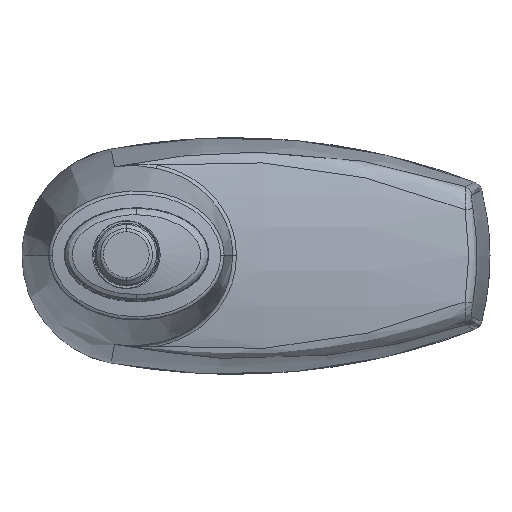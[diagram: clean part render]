
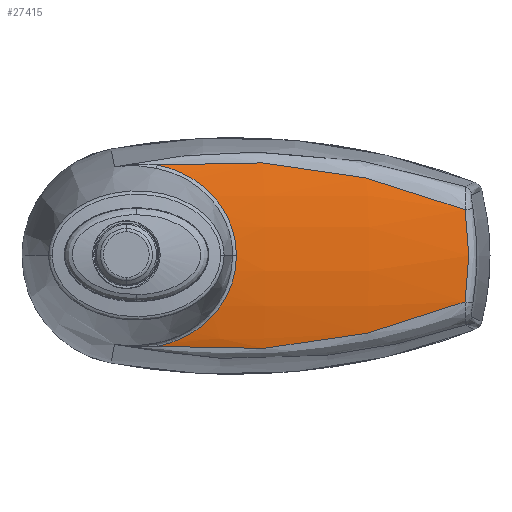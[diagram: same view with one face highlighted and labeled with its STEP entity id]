
A CAD part, top view. The second image highlights one B-rep face of the part: STEP entity #27415.
In plain terms, the highlighted toroidal (fillet/blend) face has major radius 550 mm and minor radius 200 mm.
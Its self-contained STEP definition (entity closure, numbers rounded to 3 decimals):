
#2482=CARTESIAN_POINT('',(13.738,-40.429,114.344));
#2484=CARTESIAN_POINT('',(49.053,0.,114.726));
#2485=CARTESIAN_POINT('',(49.053,2.101,114.726));
#2486=CARTESIAN_POINT('',(48.717,6.245,114.703));
#2487=CARTESIAN_POINT('',(47.249,12.277,114.61));
#2488=CARTESIAN_POINT('',(44.77,18.118,114.471));
#2489=CARTESIAN_POINT('',(41.595,23.216,114.323));
#2490=CARTESIAN_POINT('',(37.513,28.05,114.175));
#2491=CARTESIAN_POINT('',(32.376,32.458,114.065));
#2492=CARTESIAN_POINT('',(27.076,35.797,114.034));
#2493=CARTESIAN_POINT('',(20.829,38.624,114.101));
#2494=CARTESIAN_POINT('',(16.194,39.935,114.242));
#2495=CARTESIAN_POINT('',(13.738,40.429,114.344));
#2497=CARTESIAN_POINT('',(13.738,40.429,114.344));
#2498=CARTESIAN_POINT('',(37.114,42.739,111.924));
#2499=CARTESIAN_POINT('',(84.27,41.833,105.968));
#2500=CARTESIAN_POINT('',(129.511,29.417,98.022));
#2501=CARTESIAN_POINT('',(150.873,20.516,93.09));
#2503=CARTESIAN_POINT('',(150.873,20.516,93.09));
#2504=CARTESIAN_POINT('',(151.996,13.747,93.505));
#2505=CARTESIAN_POINT('',(152.561,6.874,93.718));
#2506=CARTESIAN_POINT('',(152.561,0.,
93.718));
#2508=CARTESIAN_POINT('',(152.561,0.,
93.718));
#2509=CARTESIAN_POINT('',(152.561,-6.874,93.718));
#2510=CARTESIAN_POINT('',(151.996,-13.747,93.505));
#2511=CARTESIAN_POINT('',(150.873,-20.516,93.09));
#2513=CARTESIAN_POINT('',(150.873,-20.516,93.09));
#2514=CARTESIAN_POINT('',(143.956,-23.398,94.687));
#2515=CARTESIAN_POINT('',(129.787,-28.631,97.69));
#2516=CARTESIAN_POINT('',(107.578,-34.811,101.744));
#2517=CARTESIAN_POINT('',(84.351,-39.2,105.455));
#2518=CARTESIAN_POINT('',(61.346,-41.599,108.722));
#2519=CARTESIAN_POINT('',(37.718,-42.15,111.725));
#2520=CARTESIAN_POINT('',(21.777,-41.224,113.511));
#2521=CARTESIAN_POINT('',(13.738,-40.429,114.344));
#2528=CARTESIAN_POINT('',(49.053,0.,114.726));
#2529=CARTESIAN_POINT('',(49.053,-2.077,114.726));
#2530=CARTESIAN_POINT('',(48.725,-6.185,114.703));
#2531=CARTESIAN_POINT('',(47.273,-12.209,114.612));
#2532=CARTESIAN_POINT('',(44.793,-18.076,114.472));
#2533=CARTESIAN_POINT('',(41.605,-23.206,114.323));
#2534=CARTESIAN_POINT('',(37.492,-28.074,114.175));
#2535=CARTESIAN_POINT('',(32.327,-32.496,114.064));
#2536=CARTESIAN_POINT('',(27.005,-35.835,114.034));
#2537=CARTESIAN_POINT('',(20.763,-38.646,114.103));
#2538=CARTESIAN_POINT('',(16.167,-39.94,114.243));
#2539=CARTESIAN_POINT('',(13.738,-40.429,114.344));
#19275=VERTEX_POINT('',#2482);
#19277=VERTEX_POINT('',#2513);
#19278=VERTEX_POINT('',#2484);
#19279=VERTEX_POINT('',#2495);
#19280=VERTEX_POINT('',#2501);
#19281=VERTEX_POINT('',#2506);
#27397=CARTESIAN_POINT('',(-48.,0.,-628.968));
#27398=DIRECTION('',(0.,-1.,0.));
#27399=DIRECTION('',(1.,0.,0.));
#27400=AXIS2_PLACEMENT_3D('',#27397,#27398,#27399);
#27401=TOROIDAL_SURFACE('',#27400,550.,200.);
#27403=ORIENTED_EDGE('',*,*,#27402,.T.);
#27405=ORIENTED_EDGE('',*,*,#27404,.T.);
#27407=ORIENTED_EDGE('',*,*,#27406,.T.);
#27409=ORIENTED_EDGE('',*,*,#27408,.T.);
#27410=ORIENTED_EDGE('',*,*,#27389,.T.);
#27412=ORIENTED_EDGE('',*,*,#27411,.F.);
#27413=EDGE_LOOP('',(#27403,#27405,#27407,#27409,#27410,#27412));
#27414=FACE_OUTER_BOUND('',#27413,.F.);
#27415=ADVANCED_FACE('',(#27414),#27401,.T.);
#2496=B_SPLINE_CURVE_WITH_KNOTS('',3,(#2484,#2485,#2486,#2487,#2488,#2489,#2490,
#2491,#2492,#2493,#2494,#2495),.UNSPECIFIED.,.F.,.F.,(4,1,1,1,1,1,1,1,1,4),
(0.,0.111,0.222,0.333,0.444,
0.556,0.667,0.778,0.889,1.),
.UNSPECIFIED.);
#2502=B_SPLINE_CURVE_WITH_KNOTS('',3,(#2497,#2498,#2499,#2500,#2501),
.UNSPECIFIED.,.F.,.F.,(4,1,4),(0.,0.5,1.),.UNSPECIFIED.);
#2507=B_SPLINE_CURVE_WITH_KNOTS('',3,(#2503,#2504,#2505,#2506),.UNSPECIFIED.,
.F.,.F.,(4,4),(0.,1.),.UNSPECIFIED.);
#2512=B_SPLINE_CURVE_WITH_KNOTS('',3,(#2508,#2509,#2510,#2511),.UNSPECIFIED.,
.F.,.F.,(4,4),(0.,1.),.UNSPECIFIED.);
#2522=B_SPLINE_CURVE_WITH_KNOTS('',3,(#2513,#2514,#2515,#2516,#2517,#2518,#2519,
#2520,#2521),.UNSPECIFIED.,.F.,.F.,(4,1,1,1,1,1,4),(0.,0.167,
0.333,0.5,0.667,0.833,1.),
.UNSPECIFIED.);
#2540=B_SPLINE_CURVE_WITH_KNOTS('',3,(#2528,#2529,#2530,#2531,#2532,#2533,#2534,
#2535,#2536,#2537,#2538,#2539),.UNSPECIFIED.,.F.,.F.,(4,1,1,1,1,1,1,1,1,4),
(0.,0.111,0.222,0.333,0.444,
0.556,0.667,0.778,0.889,1.),
.UNSPECIFIED.);
#27389=EDGE_CURVE('',#19277,#19275,#2522,.T.);
#27402=EDGE_CURVE('',#19278,#19279,#2496,.T.);
#27404=EDGE_CURVE('',#19279,#19280,#2502,.T.);
#27406=EDGE_CURVE('',#19280,#19281,#2507,.T.);
#27408=EDGE_CURVE('',#19281,#19277,#2512,.T.);
#27411=EDGE_CURVE('',#19278,#19275,#2540,.T.);
